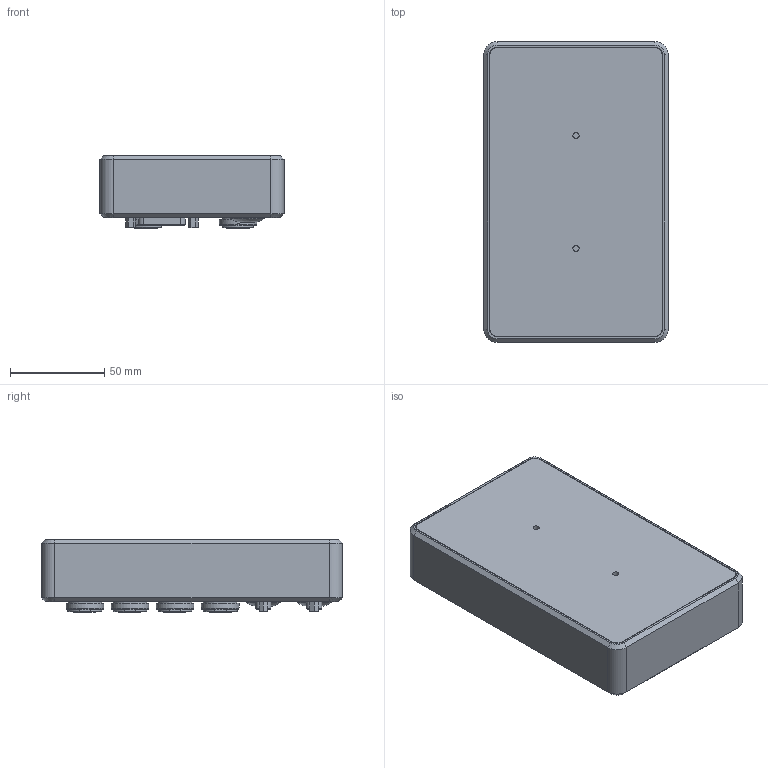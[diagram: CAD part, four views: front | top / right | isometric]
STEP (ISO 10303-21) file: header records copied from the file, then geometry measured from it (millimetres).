
FILE_DESCRIPTION(/* description */ (''),/* implementation_level */ '2;1');
FILE_NAME(/* name */ 'I:\Users\Alle\Inventor\_Projekte\254_B40.0 Irinos\Vereinfachte Modelle\B40.0 Tasterbox_LI_vereinfacht.stp',/* time_stamp */ '2022-11-09T09:29:52+01:00',/* author */ ('PE'),/* organization */ (''),/* preprocessor_version */ 'ST-DEVELOPER v18.1',/* originating_system */ 'Autodesk Inventor 2021',/* authorisation */ '');
FILE_SCHEMA (('AUTOMOTIVE_DESIGN { 1 0 10303 214 3 1 1 }'));
Products named in the file (1): B40.0 Tasterbox_LI_vereinfacht
Bounding box: 98 x 160 x 38.8 mm (x, y, z)
Volume: 466696.4 mm3; surface area: 94349.4 mm2
Topology: 1 solids, 34 shells, 3785 faces, 10192 edges, 6742 vertices
Faces by surface type: plane 2232, cylinder 874, bspline 390, cone 193, torus 89, sphere 7
Full cylindrical faces by diameter (mm): 0.217 x1, 1 x5, 1.2 x30, 1.3 x5, 1.6 x4, 2.1 x5, 2.459 x7, 2.5 x16, 3 x2, 3.242 x2, 3.4 x6, 11.7 x8, 13.85 x8, 15.1 x8, 15.188 x8, 15.4 x1, 15.6 x8, 16.1 x5, 18 x10, 18.1 x8, 20 x8
Entity records: 138410 total; most frequent: CARTESIAN_POINT 41032, ORIENTED_EDGE 20366, DIRECTION 18214, EDGE_CURVE 10183, VERTEX_POINT 6742, LINE 6360, VECTOR 6360, AXIS2_PLACEMENT_3D 5927
